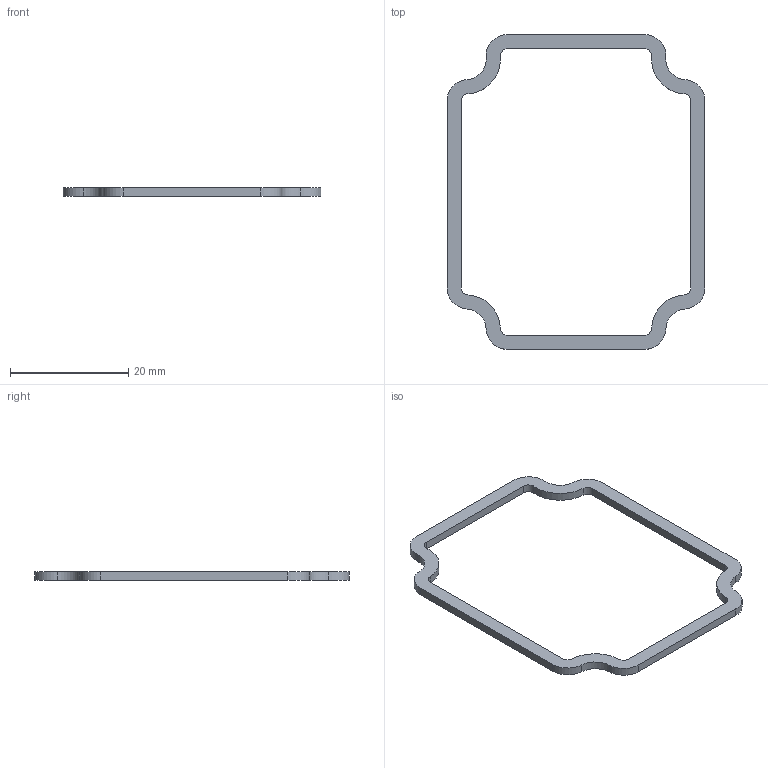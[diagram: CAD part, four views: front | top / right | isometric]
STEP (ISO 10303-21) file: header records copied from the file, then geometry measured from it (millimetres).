
FILE_DESCRIPTION(('Open CASCADE Model'),'2;1');
FILE_NAME('Open CASCADE Shape Model','2026-10-09T15:33:22',('Author'),( 'Open CASCADE'),'Open CASCADE STEP processor 7.9','Open CASCADE 7.9' ,'Unknown');
FILE_SCHEMA(('AUTOMOTIVE_DESIGN { 1 0 10303 214 1 1 1 1 }'));
Length unit declared in the file: millimetre
Products named in the file (1): Open CASCADE STEP translator 7.9 4
Bounding box: 43.6 x 53.2 x 1.4 mm (x, y, z)
Volume: 564.4 mm3; surface area: 1276.5 mm2
Topology: 1 solids, 1 shells, 34 faces, 96 edges, 64 vertices
Faces by surface type: cylinder 24, plane 10
Entity records: 2534 total; most frequent: CARTESIAN_POINT 675, DIRECTION 358, ORIENTED_EDGE 192, LINE 192, VECTOR 192, PCURVE 192, DEFINITIONAL_REPRESENTATION 192, EDGE_CURVE 96
